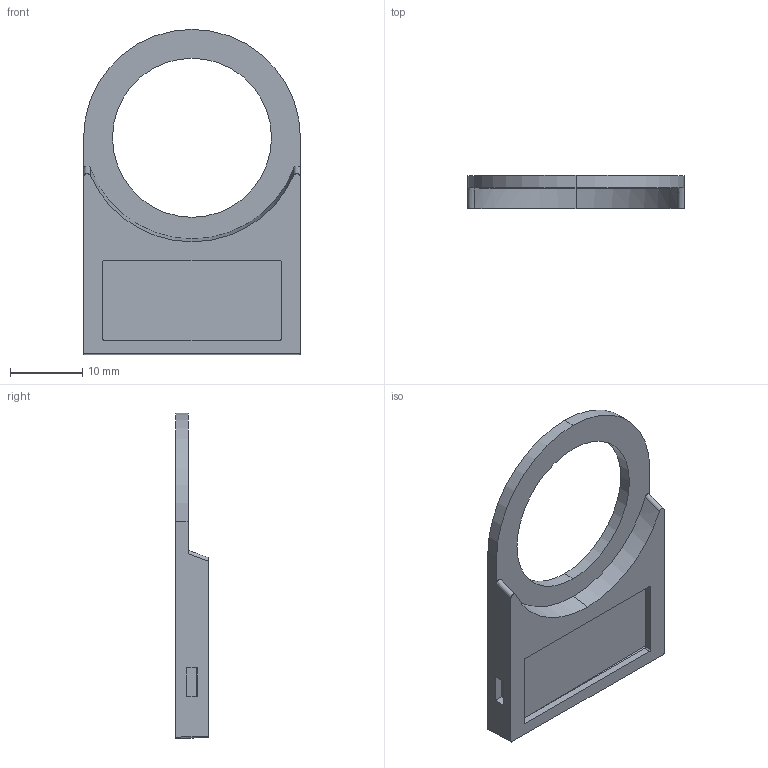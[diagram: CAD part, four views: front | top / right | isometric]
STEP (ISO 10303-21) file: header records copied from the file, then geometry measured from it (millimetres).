
FILE_DESCRIPTION (( 'STEP AP203' ), '1' );
FILE_NAME ('M22ML.STEP', '2025-12-12T13:57:32', ( '' ), ( '' ), 'SwSTEP 2.0', 'SolidWorks 2022', '' );
FILE_SCHEMA (( 'CONFIG_CONTROL_DESIGN' ));
Length unit declared in the file: millimetre
Products named in the file (1): M22ML
Bounding box: 30 x 4.5 x 45 mm (x, y, z)
Volume: 2199.8 mm3; surface area: 3730.2 mm2
Topology: 2 solids, 2 shells, 65 faces, 171 edges, 112 vertices
Faces by surface type: plane 36, cylinder 23, bspline 4, cone 2
Entity records: 2308 total; most frequent: CARTESIAN_POINT 626, ORIENTED_EDGE 342, DIRECTION 317, EDGE_CURVE 171, VERTEX_POINT 112, LINE 107, VECTOR 107, AXIS2_PLACEMENT_3D 105
